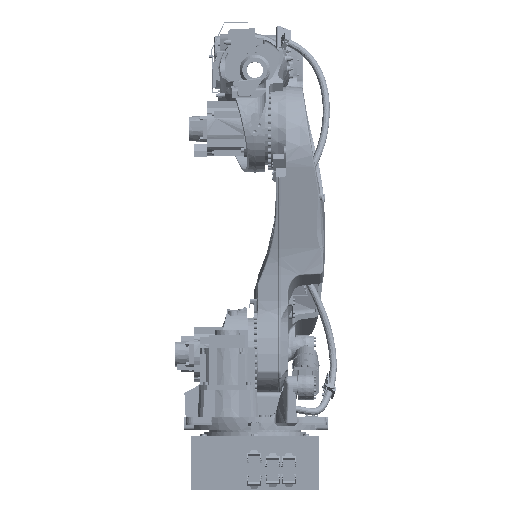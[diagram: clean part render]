
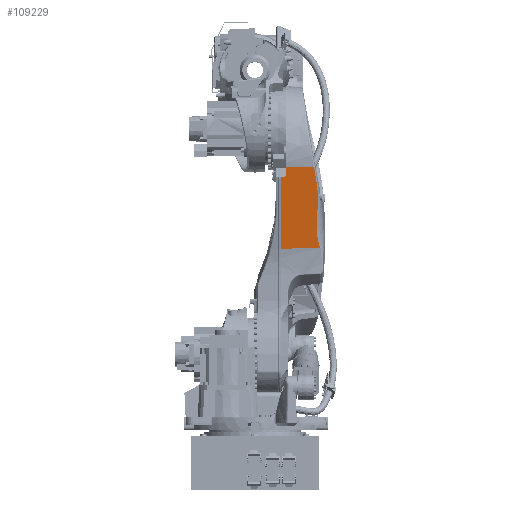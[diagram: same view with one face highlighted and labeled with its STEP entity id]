
A CAD part, front view. The second image highlights one B-rep face of the part: STEP entity #109229.
In plain terms, the highlighted planar face has unit normal (0.087, -0.974, -0.207).
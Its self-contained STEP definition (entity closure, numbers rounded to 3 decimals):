
#106467=CARTESIAN_POINT('Vertex',(230.341,-201.954,732.315)) ;
#106928=CARTESIAN_POINT('Control Point',(253.902,-132.413,415.065)) ;
#106929=CARTESIAN_POINT('Control Point',(253.685,-132.63,415.993)) ;
#106930=CARTESIAN_POINT('Control Point',(253.467,-132.847,416.922)) ;
#106931=CARTESIAN_POINT('Control Point',(253.247,-133.064,417.849)) ;
#106932=CARTESIAN_POINT('Control Point',(252.648,-133.654,420.373)) ;
#106933=CARTESIAN_POINT('Control Point',(252.043,-134.244,422.894)) ;
#106934=CARTESIAN_POINT('Control Point',(251.657,-134.618,424.493)) ;
#106935=CARTESIAN_POINT('Control Point',(250.798,-135.452,428.053)) ;
#106936=CARTESIAN_POINT('Control Point',(249.943,-136.284,431.608)) ;
#106937=CARTESIAN_POINT('Control Point',(249.475,-136.742,433.567)) ;
#106938=CARTESIAN_POINT('Control Point',(248.548,-137.657,437.482)) ;
#106939=CARTESIAN_POINT('Control Point',(247.647,-138.57,441.397)) ;
#106940=CARTESIAN_POINT('Control Point',(247.204,-139.026,443.355)) ;
#106941=CARTESIAN_POINT('Control Point',(245.907,-140.39,449.229)) ;
#106942=CARTESIAN_POINT('Control Point',(244.713,-141.747,455.107)) ;
#106943=CARTESIAN_POINT('Control Point',(243.977,-142.646,459.029)) ;
#106944=CARTESIAN_POINT('Control Point',(242.371,-144.804,468.504)) ;
#106945=CARTESIAN_POINT('Control Point',(241.224,-146.927,478.011)) ;
#106946=CARTESIAN_POINT('Control Point',(240.735,-148.153,483.575)) ;
#106947=CARTESIAN_POINT('Control Point',(239.947,-151.291,498.007)) ;
#106948=CARTESIAN_POINT('Control Point',(240.306,-154.333,512.465)) ;
#106949=CARTESIAN_POINT('Control Point',(240.904,-156.164,521.333)) ;
#106950=CARTESIAN_POINT('Control Point',(242.513,-159.642,538.37)) ;
#106951=CARTESIAN_POINT('Control Point',(244.52,-163.083,555.404)) ;
#106952=CARTESIAN_POINT('Control Point',(245.471,-164.739,563.599)) ;
#106953=CARTESIAN_POINT('Control Point',(247.218,-168.248,580.839)) ;
#106954=CARTESIAN_POINT('Control Point',(248.091,-171.836,598.087)) ;
#106955=CARTESIAN_POINT('Control Point',(248.204,-173.748,607.132)) ;
#106956=CARTESIAN_POINT('Control Point',(247.808,-176.36,619.251)) ;
#106957=CARTESIAN_POINT('Control Point',(246.764,-179.015,631.304)) ;
#106958=CARTESIAN_POINT('Control Point',(246.456,-179.698,634.386)) ;
#106959=CARTESIAN_POINT('Control Point',(245.767,-181.067,640.54)) ;
#106960=CARTESIAN_POINT('Control Point',(244.953,-182.445,646.678)) ;
#106961=CARTESIAN_POINT('Control Point',(244.521,-183.135,649.743)) ;
#106962=CARTESIAN_POINT('Control Point',(243.306,-184.991,657.964)) ;
#106963=CARTESIAN_POINT('Control Point',(242.031,-186.851,666.179)) ;
#106964=CARTESIAN_POINT('Control Point',(241.219,-188.02,671.334)) ;
#106965=CARTESIAN_POINT('Control Point',(239.547,-190.36,681.642)) ;
#106966=CARTESIAN_POINT('Control Point',(237.797,-192.707,691.948)) ;
#106967=CARTESIAN_POINT('Control Point',(236.901,-193.883,697.102)) ;
#106968=CARTESIAN_POINT('Control Point',(235.102,-196.197,707.23)) ;
#106969=CARTESIAN_POINT('Control Point',(233.225,-198.518,717.361)) ;
#106970=CARTESIAN_POINT('Control Point',(232.281,-199.664,722.357)) ;
#106971=CARTESIAN_POINT('Control Point',(231.32,-200.808,727.335)) ;
#106972=CARTESIAN_POINT('Control Point',(230.341,-201.954,732.315)) ;
#106973=CARTESIAN_POINT('Vertex',(253.902,-132.413,415.065)) ;
#109173=CARTESIAN_POINT('Vertex',(121.,-211.311,730.326)) ;
#109176=CARTESIAN_POINT('Line Origine',(-496401.142,-42702.108,-8301.335)) ;
#109190=CARTESIAN_POINT('Axis2P3D Location',(96.,-179.689,571.032)) ;
#109195=CARTESIAN_POINT('Line Origine',(101.,-175.33,552.631)) ;
#109199=CARTESIAN_POINT('Vertex',(101.,-205.162,692.978)) ;
#109201=CARTESIAN_POINT('Vertex',(101.,-145.498,412.283)) ;
#109204=CARTESIAN_POINT('Line Origine',(177.451,-138.956,413.674)) ;
#109209=CARTESIAN_POINT('Line Origine',(121.,-207.517,712.475)) ;
#109213=CARTESIAN_POINT('Vertex',(121.,-203.723,694.625)) ;
#109216=CARTESIAN_POINT('Line Origine',(111.,-204.442,693.801)) ;
#109177=DIRECTION('Vector Direction',(-0.996,-0.085,-0.018)) ;
#109191=DIRECTION('Axis2P3D Direction',(-0.087,0.974,0.207)) ;
#109192=DIRECTION('Axis2P3D XDirection',(0.,0.208,-0.978)) ;
#109196=DIRECTION('Vector Direction',(0.,0.208,-0.978)) ;
#109205=DIRECTION('Vector Direction',(0.996,0.085,0.018)) ;
#109210=DIRECTION('Vector Direction',(0.,-0.208,0.978)) ;
#109217=DIRECTION('Vector Direction',(-0.994,-0.072,-0.082)) ;
#109193=AXIS2_PLACEMENT_3D('Plane Axis2P3D',#109190,#109191,#109192) ;
#109222=ORIENTED_EDGE('',*,*,#109203,.T.) ;
#109223=ORIENTED_EDGE('',*,*,#109208,.T.) ;
#109224=ORIENTED_EDGE('',*,*,#106975,.F.) ;
#109225=ORIENTED_EDGE('',*,*,#109180,.F.) ;
#109226=ORIENTED_EDGE('',*,*,#109215,.F.) ;
#109227=ORIENTED_EDGE('',*,*,#109220,.T.) ;
#109178=VECTOR('Line Direction',#109177,1.) ;
#109197=VECTOR('Line Direction',#109196,1.) ;
#109206=VECTOR('Line Direction',#109205,1.) ;
#109211=VECTOR('Line Direction',#109210,1.) ;
#109218=VECTOR('Line Direction',#109217,1.) ;
#109229=ADVANCED_FACE('J2',(#109228),#109194,.F.) ;
#106927=B_SPLINE_CURVE_WITH_KNOTS('',5,(#106928,#106929,#106930,#106931,#106932,#106933,#106934,#106935,#106936,#106937,#106938,#106939,#106940,#106941,#106942,#106943,#106944,#106945,#106946,#106947,#106948,#106949,#106950,#106951,#106952,#106953,#106954,#106955,#106956,#106957,#106958,#106959,#106960,#106961,#106962,#106963,#106964,#106965,#106966,#106967,#106968,#106969,#106970,#106971,#106972),.UNSPECIFIED.,.F.,.U.,(6,3,3,3,3,3,3,3,3,3,3,3,3,3,6),(211.501,216.262,224.544,234.708,244.873,265.202,293.933,339.423,381.508,427.945,443.928,459.912,486.836,513.761,539.75),.UNSPECIFIED.) ;
#106975=EDGE_CURVE('',#106468,#106974,#106927,.F.) ;
#109180=EDGE_CURVE('',#109174,#106468,#109179,.F.) ;
#109203=EDGE_CURVE('',#109200,#109202,#109198,.T.) ;
#109208=EDGE_CURVE('',#109202,#106974,#109207,.T.) ;
#109215=EDGE_CURVE('',#109214,#109174,#109212,.T.) ;
#109220=EDGE_CURVE('',#109214,#109200,#109219,.T.) ;
#109221=EDGE_LOOP('',(#109222,#109223,#109224,#109225,#109226,#109227)) ;
#109228=FACE_OUTER_BOUND('',#109221,.T.) ;
#109179=LINE('Line',#109176,#109178) ;
#109198=LINE('Line',#109195,#109197) ;
#109207=LINE('Line',#109204,#109206) ;
#109212=LINE('Line',#109209,#109211) ;
#109219=LINE('Line',#109216,#109218) ;
#109194=PLANE('',#109193) ;
#106468=VERTEX_POINT('',#106467) ;
#106974=VERTEX_POINT('',#106973) ;
#109174=VERTEX_POINT('',#109173) ;
#109200=VERTEX_POINT('',#109199) ;
#109202=VERTEX_POINT('',#109201) ;
#109214=VERTEX_POINT('',#109213) ;
